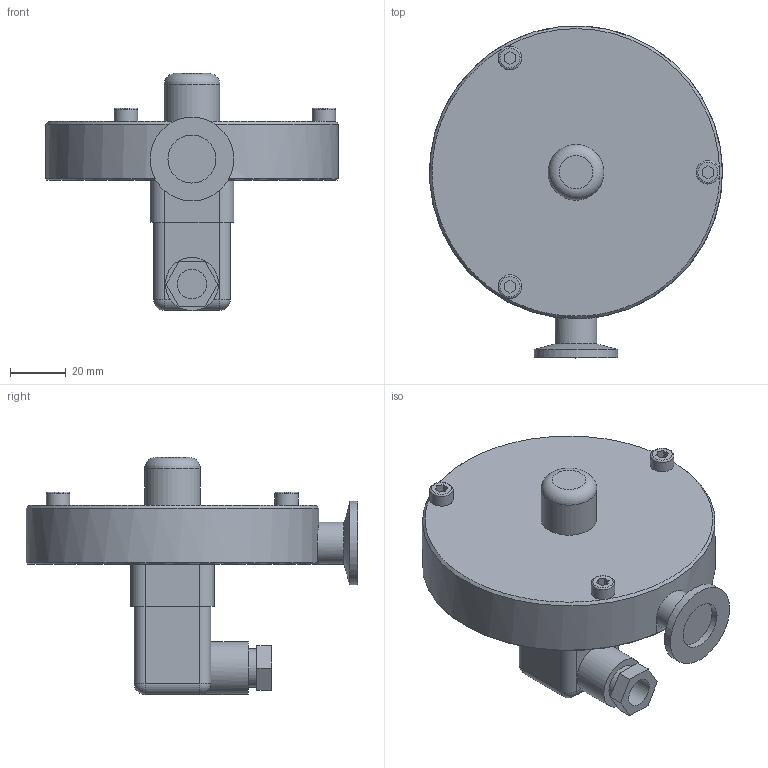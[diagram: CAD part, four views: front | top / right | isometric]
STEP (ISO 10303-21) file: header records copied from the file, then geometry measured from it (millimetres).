
FILE_DESCRIPTION((''),'2;1');
FILE_NAME('W:\16004.stp','2005-09-13T10:24:53',('BEM'),(''),'Autodesk Inventor 10','Autodesk Inventor 10','');
FILE_SCHEMA(('AUTOMOTIVE_DESIGN { 1 0 10303 214 1 1 1 1 }'));
Length unit declared in the file: millimetre
Products named in the file (1): 16004
Bounding box: 104.97 x 118.96 x 85 mm (x, y, z)
Volume: 232532.8 mm3; surface area: 33835.9 mm2
Topology: 1 solids, 1 shells, 85 faces, 197 edges, 120 vertices
Faces by surface type: plane 49, cylinder 25, sphere 4, torus 4, cone 3
Full cylindrical faces by diameter (mm): 8.4 x3, 10.5 x1, 13.8 x1, 15 x1, 17.2 x1, 19 x1, 20 x1, 30 x1, 105 x1
Entity records: 2333 total; most frequent: CARTESIAN_POINT 487, DIRECTION 386, ORIENTED_EDGE 340, EDGE_CURVE 170, AXIS2_PLACEMENT_3D 138, VERTEX_POINT 115, EDGE_LOOP 111, VECTOR 110
